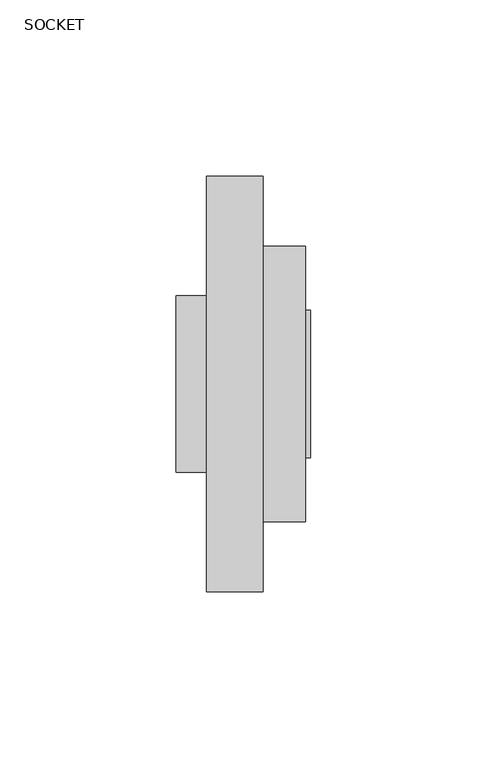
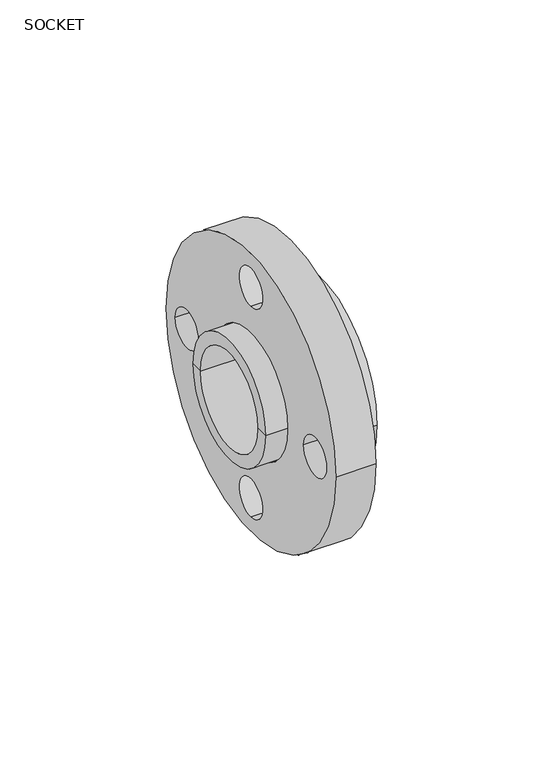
"""IFC4 building model written with IfcOpenShell, lengths in millimetres: valve geometry, Aquatherm - Flange Adapter Socket : SOCKET."""

from ifc_helpers import new_model, si_unit, point, frame, frame_2d, origin, origin_2d, place, context, project, spatial, polyline, circle_curve, trimmed, segment, composite_curve, outline, extrude, source, transform, mapped, element, save
from ifc_brep_helpers import plane_surface, cylinder_surface, revolved_surface, advanced_brep


def socket_f4b1bf2e(model_context):
    return source(origin(), model_context, "Body", "SolidModel", [
        extrude(outline(composite_curve([segment(trimmed(circle_curve(origin_2d(), 58.801), [point((58.801, 0.0))], [point((-58.801, 0.0))], False, "CARTESIAN"), True, "CONTINUOUS"), segment(trimmed(circle_curve(origin_2d(), 58.801), [point((-58.801, 0.0))], [point((58.801, 0.0))], False, "CARTESIAN"), True, "CONTINUOUS")], self_intersect=False), holes=[composite_curve([segment(trimmed(circle_curve(origin_2d(), 25.4), [point((25.4, 0.0))], [point((-25.4, 0.0))], True, "CARTESIAN"), True, "CONTINUOUS"), segment(trimmed(circle_curve(origin_2d(), 25.4), [point((-25.4, 0.0))], [point((25.4, 0.0))], True, "CARTESIAN"), True, "CONTINUOUS")], self_intersect=False), composite_curve([segment(trimmed(circle_curve(frame_2d((-44.45, 0.0)), 8.001), [point((-36.449, 0.0))], [point((-52.451, 0.0))], True, "CARTESIAN"), True, "CONTINUOUS"), segment(trimmed(circle_curve(frame_2d((-44.45, 0.0)), 8.001), [point((-52.451, 0.0))], [point((-36.449, 0.0))], True, "CARTESIAN"), True, "CONTINUOUS")], self_intersect=False), composite_curve([segment(trimmed(circle_curve(frame_2d((0.0, -44.45)), 8.001), [point((0.0, -36.449))], [point((0.0, -52.451))], True, "CARTESIAN"), True, "CONTINUOUS"), segment(trimmed(circle_curve(frame_2d((0.0, -44.45)), 8.001), [point((0.0, -52.451))], [point((0.0, -36.449))], True, "CARTESIAN"), True, "CONTINUOUS")], self_intersect=False), composite_curve([segment(trimmed(circle_curve(frame_2d((0.0, 44.45)), 8.001), [point((0.0, 36.449))], [point((0.0, 52.451))], True, "CARTESIAN"), True, "CONTINUOUS"), segment(trimmed(circle_curve(frame_2d((0.0, 44.45)), 8.001), [point((0.0, 52.451))], [point((0.0, 36.449))], True, "CARTESIAN"), True, "CONTINUOUS")], self_intersect=False), composite_curve([segment(trimmed(circle_curve(frame_2d((44.45, 0.0)), 8.001), [point((36.449, 0.0))], [point((52.451, 0.0))], True, "CARTESIAN"), True, "CONTINUOUS"), segment(trimmed(circle_curve(frame_2d((44.45, 0.0)), 8.001), [point((52.451, 0.0))], [point((36.449, 0.0))], True, "CARTESIAN"), True, "CONTINUOUS")], self_intersect=False)]), frame((-16.002, 0.0, 0.0), z_axis=(1.0, 0.0, 0.0), x_axis=(0.0, 1.0, 0.0)), (0.0, 0.0, 1.0), 16.002),
        advanced_brep(
        [(13.462, -15.875, 0.0), (13.462, -20.955, 0.0), (13.462, 20.955, 0.0), (13.462, 15.875, 0.0), (-4.064, -15.875, 0.0), (-4.064, 15.875, 0.0), (-4.064, -19.939, 0.0), (-4.064, 19.939, 0.0), (-24.638, -19.939, 0.0), (-24.638, 19.939, 0.0), (-24.638, -25.019, 0.0), (-24.638, 25.019, 0.0), (0.0, -25.019, 0.0), (0.0, 25.019, 0.0), (0.0, -38.989, 0.0), (0.0, 38.989, 0.0), (11.938, -38.989, 0.0), (11.938, 38.989, 0.0), (11.938, -20.955, 0.0), (11.938, 20.955, 0.0)],
        [
            (0, 1),
            (1, 2, circle_curve(frame((13.462, 0.0, 0.0), z_axis=(1.0, 0.0, 0.0), x_axis=(0.0, 1.0, 0.0)), 20.955)),
            (2, 3),
            (3, 0, circle_curve(frame((13.462, 0.0, 0.0), z_axis=(-1.0, 0.0, 0.0), x_axis=(0.0, 1.0, 0.0)), 15.875)),
            (2, 1, circle_curve(frame((13.462, 0.0, 0.0), z_axis=(1.0, 0.0, 0.0), x_axis=(0.0, 1.0, 0.0)), 20.955)),
            (0, 3, circle_curve(frame((13.462, 0.0, 0.0), z_axis=(-1.0, 0.0, 0.0), x_axis=(0.0, 1.0, 0.0)), 15.875)),
            (4, 0),
            (3, 5),
            (5, 4, circle_curve(frame((-4.064, 0.0, 0.0), z_axis=(-1.0, 0.0, 0.0), x_axis=(0.0, 1.0, 0.0)), 15.875)),
            (4, 5, circle_curve(frame((-4.064, 0.0, 0.0), z_axis=(-1.0, 0.0, 0.0), x_axis=(0.0, 1.0, 0.0)), 15.875)),
            (6, 4),
            (5, 7),
            (7, 6, circle_curve(frame((-4.064, 0.0, 0.0), z_axis=(-1.0, 0.0, 0.0), x_axis=(0.0, 1.0, 0.0)), 19.939)),
            (6, 7, circle_curve(frame((-4.064, 0.0, 0.0), z_axis=(-1.0, 0.0, 0.0), x_axis=(0.0, 1.0, 0.0)), 19.939)),
            (8, 6),
            (7, 9),
            (9, 8, circle_curve(frame((-24.638, 0.0, 0.0), z_axis=(-1.0, 0.0, 0.0), x_axis=(0.0, 1.0, 0.0)), 19.939)),
            (8, 9, circle_curve(frame((-24.638, 0.0, 0.0), z_axis=(-1.0, 0.0, 0.0), x_axis=(0.0, 1.0, 0.0)), 19.939)),
            (10, 8),
            (9, 11),
            (11, 10, circle_curve(frame((-24.638, 0.0, 0.0), z_axis=(-1.0, 0.0, 0.0), x_axis=(0.0, 1.0, 0.0)), 25.019)),
            (10, 11, circle_curve(frame((-24.638, 0.0, 0.0), z_axis=(-1.0, 0.0, 0.0), x_axis=(0.0, 1.0, 0.0)), 25.019)),
            (12, 10),
            (11, 13),
            (13, 12, circle_curve(frame((0.0, 0.0, 0.0), z_axis=(-1.0, 0.0, 0.0), x_axis=(0.0, 1.0, 0.0)), 25.019)),
            (12, 13, circle_curve(frame((0.0, 0.0, 0.0), z_axis=(-1.0, 0.0, 0.0), x_axis=(0.0, 1.0, 0.0)), 25.019)),
            (14, 12),
            (13, 15),
            (15, 14, circle_curve(frame((0.0, 0.0, 0.0), z_axis=(-1.0, 0.0, 0.0), x_axis=(0.0, 1.0, 0.0)), 38.989)),
            (14, 15, circle_curve(frame((0.0, 0.0, 0.0), z_axis=(-1.0, 0.0, 0.0), x_axis=(0.0, 1.0, 0.0)), 38.989)),
            (16, 14),
            (15, 17),
            (17, 16, circle_curve(frame((11.938, 0.0, 0.0), z_axis=(-1.0, 0.0, 0.0), x_axis=(0.0, 1.0, 0.0)), 38.989)),
            (16, 17, circle_curve(frame((11.938, 0.0, 0.0), z_axis=(-1.0, 0.0, 0.0), x_axis=(0.0, 1.0, 0.0)), 38.989)),
            (18, 16),
            (17, 19),
            (19, 18, circle_curve(frame((11.938, 0.0, 0.0), z_axis=(-1.0, 0.0, 0.0), x_axis=(0.0, 1.0, 0.0)), 20.955)),
            (18, 19, circle_curve(frame((11.938, 0.0, 0.0), z_axis=(-1.0, 0.0, 0.0), x_axis=(0.0, 1.0, 0.0)), 20.955)),
            (1, 18),
            (19, 2),
        ],
        [
            plane_surface(frame((13.462, 0.0, 0.0), z_axis=(1.0, 0.0, 0.0), x_axis=(0.0, 1.0, 0.0))),
            revolved_surface(polyline([(13.461999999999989, 15.875, 0.0), (-4.064000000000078, 15.875, 0.0)]), (1442.7571939, 0.0, 0.0), (1.0, 0.0, 0.0)),
            plane_surface(frame((-4.064, 0.0, 0.0), z_axis=(-1.0, 0.0, 0.0), x_axis=(0.0, 1.0, 0.0))),
            revolved_surface(polyline([(-4.064000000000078, 19.939, 0.0), (-24.63799999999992, 19.939, 0.0)]), (1442.7571939, 0.0, 0.0), (1.0, 0.0, 0.0)),
            plane_surface(frame((-24.638, 0.0, 0.0), z_axis=(-1.0, 0.0, 0.0), x_axis=(0.0, 1.0, 0.0))),
            cylinder_surface(frame((1442.7571939, 0.0, 0.0), z_axis=(1.0, 0.0, 0.0), x_axis=(0.0, 1.0, 0.0)), 25.019),
            plane_surface(frame((0.0, 0.0, 0.0), z_axis=(-1.0, 0.0, 0.0), x_axis=(0.0, 1.0, 0.0))),
            cylinder_surface(frame((1442.7571939, 0.0, 0.0), z_axis=(1.0, 0.0, 0.0), x_axis=(0.0, 1.0, 0.0)), 38.989),
            plane_surface(frame((11.938, 0.0, 0.0), z_axis=(1.0, 0.0, 0.0), x_axis=(0.0, 1.0, 0.0))),
            cylinder_surface(frame((1442.7571939, 0.0, 0.0), z_axis=(1.0, 0.0, 0.0), x_axis=(0.0, 1.0, 0.0)), 20.955),
        ],
        [
            (0, [[1, 2, 3, 4]]),
            (0, [[-3, 5, -1, 6]]),
            (1, [[7, -4, 8, 9]]),
            (1, [[-8, -6, -7, 10]]),
            (2, [[11, -9, 12, 13]]),
            (2, [[-12, -10, -11, 14]]),
            (3, [[15, -13, 16, 17]]),
            (3, [[-16, -14, -15, 18]]),
            (4, [[19, -17, 20, 21]]),
            (4, [[-20, -18, -19, 22]]),
            (5, [[23, -21, 24, 25]]),
            (5, [[-24, -22, -23, 26]]),
            (6, [[27, -25, 28, 29]]),
            (6, [[-28, -26, -27, 30]]),
            (7, [[31, -29, 32, 33]]),
            (7, [[-32, -30, -31, 34]]),
            (8, [[35, -33, 36, 37]]),
            (8, [[-36, -34, -35, 38]]),
            (9, [[39, -37, 40, -2]]),
            (9, [[-40, -38, -39, -5]]),
        ],
    ),
    ])


if __name__ == "__main__":
    model = new_model("IFC4")
    model_context = context("Model", 3, world=origin())
    ifc_project = project(units=[si_unit("LENGTHUNIT", "METRE", prefix="MILLI")], contexts=[model_context])
    site = spatial("IfcSite", under=ifc_project)
    building = spatial("IfcBuilding", under=site)
    placement = place(None, origin())
    ifc_socket_shape = socket_f4b1bf2e(model_context)
    element("IfcValve", 1, ObjectType="Aquatherm - Flange Adapter Socket : SOCKET", at=placement, inside=building, context=model_context, shape_type="MappedRepresentation", body=[
        mapped(ifc_socket_shape, transform((0.0, 0.0, 0.0), x_axis=(1.0, 0.0, 0.0), y_axis=(0.0, 1.0, 0.0), z_axis=(0.0, 0.0, 1.0))),
    ])
    save(model, "model.ifc")
